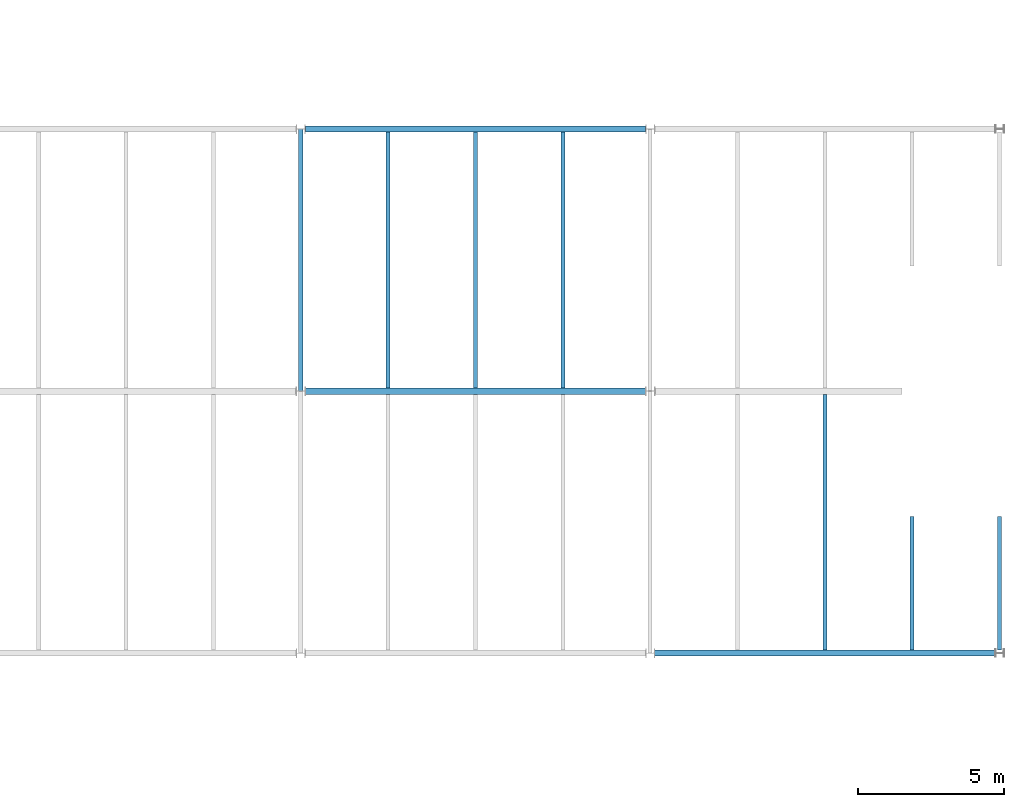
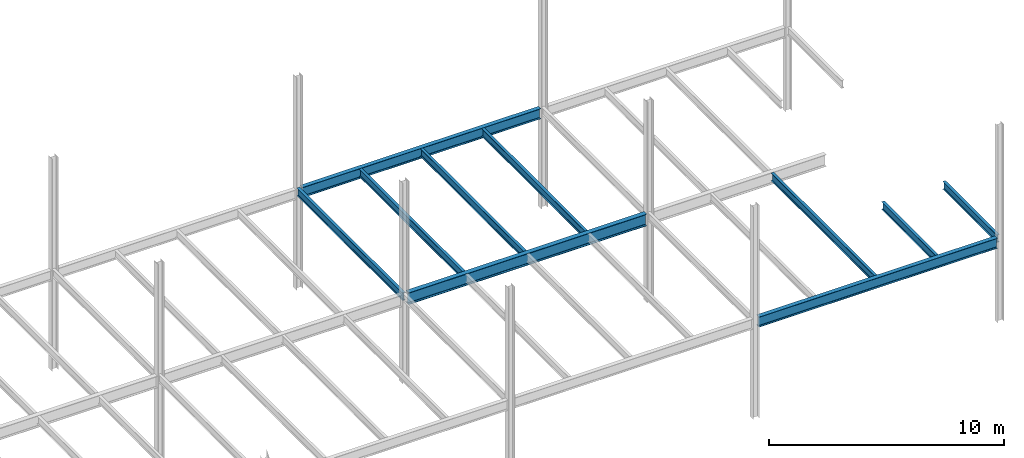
# One storey, part 18 of 19: 10 beams.
"""IFC2X3 building model written with IfcOpenShell, lengths in millimetres."""

from ifc_helpers import new_model, si_unit, origin, place, context, project, spatial, faceted_brep, material, element, save


model = new_model("IFC2X3")

# Units and contexts
context_of_model = context(None, 3, precision=1e-05, world=origin())
ifc_project = project(units=[si_unit("LENGTHUNIT", "METRE", prefix="MILLI")], contexts=[context_of_model])

# Building, storey
building = spatial("IfcBuilding", under=ifc_project, Name="Building", CompositionType="ELEMENT")
storey = spatial("IfcBuildingStorey", under=building, Name="FL2-FRM", CompositionType="ELEMENT")

# Beams
ifc_material_1 = material(Name="A992")
beam_1_placement = place(None, origin())
element("IfcBeam", 1, at=beam_1_placement, inside=storey, material=ifc_material_1, Name="Column493", context=context_of_model, shape_type="Brep", body=[
    faceted_brep([(60157.0, 26895.5, 3845.0), (60157.0, 27104.5, 3845.0), (71843.0, 27104.5, 3845.0), (71843.0, 26895.5, 3845.0), (60157.0, 27104.5, 3858.3), (71843.0, 27104.5, 3858.3), (60157.0, 27017.4, 3858.3), (71843.0, 27017.4, 3858.3), (60157.0, 27014.2, 3858.73), (71843.0, 27014.2, 3858.73), (60157.0, 27011.1, 3860.0), (71843.0, 27011.1, 3860.0), (60157.0, 27008.5, 3862.02), (71843.0, 27008.5, 3862.02), (60157.0, 27006.5, 3864.65), (71843.0, 27006.5, 3864.65), (60157.0, 27005.2, 3867.71), (71843.0, 27005.2, 3867.71), (60157.0, 27004.8, 3871.0), (71843.0, 27004.8, 3871.0), (60157.0, 27004.8, 4347.0), (71843.0, 27004.8, 4347.0), (60157.0, 27005.2, 4350.29), (71843.0, 27005.2, 4350.29), (60157.0, 27006.5, 4353.35), (71843.0, 27006.5, 4353.35), (60157.0, 27008.5, 4355.98), (71843.0, 27008.5, 4355.98), (60157.0, 27011.1, 4358.0), (71843.0, 27011.1, 4358.0), (60157.0, 27014.2, 4359.27), (71843.0, 27014.2, 4359.27), (60157.0, 27017.4, 4359.7), (71843.0, 27017.4, 4359.7), (60157.0, 27104.5, 4359.7), (71843.0, 27104.5, 4359.7), (60157.0, 27104.5, 4373.0), (71843.0, 27104.5, 4373.0), (60157.0, 26895.5, 4373.0), (71843.0, 26895.5, 4373.0), (60157.0, 26895.5, 4359.7), (71843.0, 26895.5, 4359.7), (60157.0, 26982.6, 4359.7), (71843.0, 26982.6, 4359.7), (60157.0, 26985.8, 4359.27), (71843.0, 26985.8, 4359.27), (60157.0, 26988.9, 4358.0), (71843.0, 26988.9, 4358.0), (60157.0, 26991.5, 4355.98), (71843.0, 26991.5, 4355.98), (60157.0, 26993.5, 4353.35), (71843.0, 26993.5, 4353.35), (60157.0, 26994.8, 4350.29), (71843.0, 26994.8, 4350.29), (60157.0, 26995.3, 4347.0), (71843.0, 26995.3, 4347.0), (60157.0, 26995.3, 3871.0), (71843.0, 26995.3, 3871.0), (60157.0, 26994.8, 3867.71), (71843.0, 26994.8, 3867.71), (60157.0, 26993.5, 3864.65), (71843.0, 26993.5, 3864.65), (60157.0, 26991.5, 3862.02), (71843.0, 26991.5, 3862.02), (60157.0, 26988.9, 3860.0), (71843.0, 26988.9, 3860.0), (60157.0, 26985.8, 3858.73), (71843.0, 26985.8, 3858.73), (60157.0, 26982.6, 3858.3), (71843.0, 26982.6, 3858.3), (60157.0, 26895.5, 3858.3), (71843.0, 26895.5, 3858.3)], [[[0, 1, 2, 3]], [[1, 4, 5, 2]], [[4, 6, 7, 5]], [[6, 8, 9, 7]], [[8, 10, 11, 9]], [[10, 12, 13, 11]], [[12, 14, 15, 13]], [[14, 16, 17, 15]], [[16, 18, 19, 17]], [[18, 20, 21, 19]], [[20, 22, 23, 21]], [[22, 24, 25, 23]], [[24, 26, 27, 25]], [[26, 28, 29, 27]], [[28, 30, 31, 29]], [[30, 32, 33, 31]], [[32, 34, 35, 33]], [[34, 36, 37, 35]], [[36, 38, 39, 37]], [[38, 40, 41, 39]], [[40, 42, 43, 41]], [[42, 44, 45, 43]], [[44, 46, 47, 45]], [[46, 48, 49, 47]], [[48, 50, 51, 49]], [[50, 52, 53, 51]], [[52, 54, 55, 53]], [[54, 56, 57, 55]], [[56, 58, 59, 57]], [[58, 60, 61, 59]], [[60, 62, 63, 61]], [[62, 64, 65, 63]], [[64, 66, 67, 65]], [[66, 68, 69, 67]], [[68, 70, 71, 69]], [[70, 0, 3, 71]], [[0, 70, 68, 66, 64, 62, 60, 58, 56, 54, 52, 50, 48, 46, 44, 42, 40, 38, 36, 34, 32, 30, 28, 26, 24, 22, 20, 18, 16, 14, 12, 10, 8, 6, 4, 1]], [[3, 2, 5, 7, 9, 11, 13, 15, 17, 19, 21, 23, 25, 27, 29, 31, 33, 35, 37, 39, 41, 43, 45, 47, 49, 51, 53, 55, 57, 59, 61, 63, 65, 67, 69, 71]]]),
])
ifc_material_2 = material(Name="A992")
beam_2_placement = place(None, origin())
element("IfcBeam", 2, at=beam_2_placement, inside=storey, material=ifc_material_2, Name="Column496", context=context_of_model, shape_type="Brep", body=[
    faceted_brep([(72154.0, 8895.5, 3845.0), (72154.0, 9104.5, 3845.0), (83847.0, 9104.5, 3845.0), (83847.0, 8895.5, 3845.0), (72154.0, 9104.5, 3858.3), (83847.0, 9104.5, 3858.3), (72154.0, 9017.45, 3858.3), (83847.0, 9017.45, 3858.3), (72154.0, 9014.16, 3858.73), (83847.0, 9014.16, 3858.73), (72154.0, 9011.1, 3860.0), (83847.0, 9011.1, 3860.0), (72154.0, 9008.47, 3862.02), (83847.0, 9008.47, 3862.02), (72154.0, 9006.45, 3864.65), (83847.0, 9006.45, 3864.65), (72154.0, 9005.18, 3867.71), (83847.0, 9005.18, 3867.71), (72154.0, 9004.75, 3871.0), (83847.0, 9004.75, 3871.0), (72154.0, 9004.75, 4347.0), (83847.0, 9004.75, 4347.0), (72154.0, 9005.18, 4350.29), (83847.0, 9005.18, 4350.29), (72154.0, 9006.45, 4353.35), (83847.0, 9006.45, 4353.35), (72154.0, 9008.47, 4355.98), (83847.0, 9008.47, 4355.98), (72154.0, 9011.1, 4358.0), (83847.0, 9011.1, 4358.0), (72154.0, 9014.16, 4359.27), (83847.0, 9014.16, 4359.27), (72154.0, 9017.45, 4359.7), (83847.0, 9017.45, 4359.7), (72154.0, 9104.5, 4359.7), (83847.0, 9104.5, 4359.7), (72154.0, 9104.5, 4373.0), (83847.0, 9104.5, 4373.0), (72154.0, 8895.5, 4373.0), (83847.0, 8895.5, 4373.0), (72154.0, 8895.5, 4359.7), (83847.0, 8895.5, 4359.7), (72154.0, 8982.55, 4359.7), (83847.0, 8982.55, 4359.7), (72154.0, 8985.84, 4359.27), (83847.0, 8985.84, 4359.27), (72154.0, 8988.9, 4358.0), (83847.0, 8988.9, 4358.0), (72154.0, 8991.53, 4355.98), (83847.0, 8991.53, 4355.98), (72154.0, 8993.55, 4353.35), (83847.0, 8993.55, 4353.35), (72154.0, 8994.82, 4350.29), (83847.0, 8994.82, 4350.29), (72154.0, 8995.25, 4347.0), (83847.0, 8995.25, 4347.0), (72154.0, 8995.25, 3871.0), (83847.0, 8995.25, 3871.0), (72154.0, 8994.82, 3867.71), (83847.0, 8994.82, 3867.71), (72154.0, 8993.55, 3864.65), (83847.0, 8993.55, 3864.65), (72154.0, 8991.53, 3862.02), (83847.0, 8991.53, 3862.02), (72154.0, 8988.9, 3860.0), (83847.0, 8988.9, 3860.0), (72154.0, 8985.84, 3858.73), (83847.0, 8985.84, 3858.73), (72154.0, 8982.55, 3858.3), (83847.0, 8982.55, 3858.3), (72154.0, 8895.5, 3858.3), (83847.0, 8895.5, 3858.3)], [[[0, 1, 2, 3]], [[1, 4, 5, 2]], [[4, 6, 7, 5]], [[6, 8, 9, 7]], [[8, 10, 11, 9]], [[10, 12, 13, 11]], [[12, 14, 15, 13]], [[14, 16, 17, 15]], [[16, 18, 19, 17]], [[18, 20, 21, 19]], [[20, 22, 23, 21]], [[22, 24, 25, 23]], [[24, 26, 27, 25]], [[26, 28, 29, 27]], [[28, 30, 31, 29]], [[30, 32, 33, 31]], [[32, 34, 35, 33]], [[34, 36, 37, 35]], [[36, 38, 39, 37]], [[38, 40, 41, 39]], [[40, 42, 43, 41]], [[42, 44, 45, 43]], [[44, 46, 47, 45]], [[46, 48, 49, 47]], [[48, 50, 51, 49]], [[50, 52, 53, 51]], [[52, 54, 55, 53]], [[54, 56, 57, 55]], [[56, 58, 59, 57]], [[58, 60, 61, 59]], [[60, 62, 63, 61]], [[62, 64, 65, 63]], [[64, 66, 67, 65]], [[66, 68, 69, 67]], [[68, 70, 71, 69]], [[70, 0, 3, 71]], [[0, 70, 68, 66, 64, 62, 60, 58, 56, 54, 52, 50, 48, 46, 44, 42, 40, 38, 36, 34, 32, 30, 28, 26, 24, 22, 20, 18, 16, 14, 12, 10, 8, 6, 4, 1]], [[3, 2, 5, 7, 9, 11, 13, 15, 17, 19, 21, 23, 25, 27, 29, 31, 33, 35, 37, 39, 41, 43, 45, 47, 49, 51, 53, 55, 57, 59, 61, 63, 65, 67, 69, 71]]]),
])
ifc_material_3 = material(Name="A992")
beam_3_placement = place(None, origin())
element("IfcBeam", 3, at=beam_3_placement, inside=storey, material=ifc_material_3, Name="Column498", context=context_of_model, shape_type="Brep", body=[
    faceted_brep([(60166.5, 17885.5, 3761.0), (60166.5, 18114.5, 3761.0), (71833.5, 18114.5, 3761.0), (71833.5, 17885.5, 3761.0), (60166.5, 18114.5, 3780.6), (71833.5, 18114.5, 3780.6), (60166.5, 18018.6, 3780.6), (71833.5, 18018.6, 3780.6), (60166.5, 18015.4, 3781.03), (71833.5, 18015.4, 3781.03), (60166.5, 18012.3, 3782.3), (71833.5, 18012.3, 3782.3), (60166.5, 18009.7, 3784.32), (71833.5, 18009.7, 3784.32), (60166.5, 18007.7, 3786.95), (71833.5, 18007.7, 3786.95), (60166.5, 18006.4, 3790.01), (71833.5, 18006.4, 3790.01), (60166.5, 18005.9, 3793.3), (71833.5, 18005.9, 3793.3), (60166.5, 18005.9, 4340.7), (71833.5, 18005.9, 4340.7), (60166.5, 18006.4, 4343.99), (71833.5, 18006.4, 4343.99), (60166.5, 18007.7, 4347.05), (71833.5, 18007.7, 4347.05), (60166.5, 18009.7, 4349.68), (71833.5, 18009.7, 4349.68), (60166.5, 18012.3, 4351.7), (71833.5, 18012.3, 4351.7), (60166.5, 18015.4, 4352.97), (71833.5, 18015.4, 4352.97), (60166.5, 18018.6, 4353.4), (71833.5, 18018.6, 4353.4), (60166.5, 18114.5, 4353.4), (71833.5, 18114.5, 4353.4), (60166.5, 18114.5, 4373.0), (71833.5, 18114.5, 4373.0), (60166.5, 17885.5, 4373.0), (71833.5, 17885.5, 4373.0), (60166.5, 17885.5, 4353.4), (71833.5, 17885.5, 4353.4), (60166.5, 17981.4, 4353.4), (71833.5, 17981.4, 4353.4), (60166.5, 17984.6, 4352.97), (71833.5, 17984.6, 4352.97), (60166.5, 17987.7, 4351.7), (71833.5, 17987.7, 4351.7), (60166.5, 17990.3, 4349.68), (71833.5, 17990.3, 4349.68), (60166.5, 17992.3, 4347.05), (71833.5, 17992.3, 4347.05), (60166.5, 17993.6, 4343.99), (71833.5, 17993.6, 4343.99), (60166.5, 17994.1, 4340.7), (71833.5, 17994.1, 4340.7), (60166.5, 17994.1, 3793.3), (71833.5, 17994.1, 3793.3), (60166.5, 17993.6, 3790.01), (71833.5, 17993.6, 3790.01), (60166.5, 17992.3, 3786.95), (71833.5, 17992.3, 3786.95), (60166.5, 17990.3, 3784.32), (71833.5, 17990.3, 3784.32), (60166.5, 17987.7, 3782.3), (71833.5, 17987.7, 3782.3), (60166.5, 17984.6, 3781.03), (71833.5, 17984.6, 3781.03), (60166.5, 17981.4, 3780.6), (71833.5, 17981.4, 3780.6), (60166.5, 17885.5, 3780.6), (71833.5, 17885.5, 3780.6)], [[[0, 1, 2, 3]], [[1, 4, 5, 2]], [[4, 6, 7, 5]], [[6, 8, 9, 7]], [[8, 10, 11, 9]], [[10, 12, 13, 11]], [[12, 14, 15, 13]], [[14, 16, 17, 15]], [[16, 18, 19, 17]], [[18, 20, 21, 19]], [[20, 22, 23, 21]], [[22, 24, 25, 23]], [[24, 26, 27, 25]], [[26, 28, 29, 27]], [[28, 30, 31, 29]], [[30, 32, 33, 31]], [[32, 34, 35, 33]], [[34, 36, 37, 35]], [[36, 38, 39, 37]], [[38, 40, 41, 39]], [[40, 42, 43, 41]], [[42, 44, 45, 43]], [[44, 46, 47, 45]], [[46, 48, 49, 47]], [[48, 50, 51, 49]], [[50, 52, 53, 51]], [[52, 54, 55, 53]], [[54, 56, 57, 55]], [[56, 58, 59, 57]], [[58, 60, 61, 59]], [[60, 62, 63, 61]], [[62, 64, 65, 63]], [[64, 66, 67, 65]], [[66, 68, 69, 67]], [[68, 70, 71, 69]], [[70, 0, 3, 71]], [[0, 70, 68, 66, 64, 62, 60, 58, 56, 54, 52, 50, 48, 46, 44, 42, 40, 38, 36, 34, 32, 30, 28, 26, 24, 22, 20, 18, 16, 14, 12, 10, 8, 6, 4, 1]], [[3, 2, 5, 7, 9, 11, 13, 15, 17, 19, 21, 23, 25, 27, 29, 31, 33, 35, 37, 39, 41, 43, 45, 47, 49, 51, 53, 55, 57, 59, 61, 63, 65, 67, 69, 71]]]),
])
ifc_material_4 = material(Name="A992")
beam_4_placement = place(None, origin())
element("IfcBeam", 4, at=beam_4_placement, inside=storey, material=ifc_material_4, Name="B1096", context=context_of_model, shape_type="Brep", body=[
    faceted_brep([(59930.0, 26994.1, 3974.0), (60070.0, 26994.1, 3974.0), (60070.0, 18009.0, 3974.0), (59930.0, 18009.0, 3974.0), (60070.0, 26994.1, 3982.8), (60070.0, 18009.0, 3982.8), (60013.4, 26994.1, 3982.8), (60013.4, 18009.0, 3982.8), (60010.8, 26994.1, 3983.15), (60010.8, 18009.0, 3983.15), (60008.3, 26994.1, 3984.17), (60008.3, 18009.0, 3984.17), (60006.2, 26994.1, 3985.79), (60006.2, 18009.0, 3985.79), (60004.6, 26994.1, 3987.9), (60004.6, 18009.0, 3987.9), (60003.5, 26994.1, 3990.36), (60003.5, 18009.0, 3990.36), (60003.2, 26994.1, 3993.0), (60003.2, 18009.0, 3993.0), (60003.2, 26994.1, 4354.0), (60003.2, 18009.0, 4354.0), (60003.5, 26994.1, 4356.64), (60003.5, 18009.0, 4356.64), (60004.6, 26994.1, 4359.1), (60004.6, 18009.0, 4359.1), (60006.2, 26994.1, 4361.21), (60006.2, 18009.0, 4361.21), (60008.3, 26994.1, 4362.83), (60008.3, 18009.0, 4362.83), (60010.8, 26994.1, 4363.85), (60010.8, 18009.0, 4363.85), (60013.4, 26994.1, 4364.2), (60013.4, 18009.0, 4364.2), (60070.0, 26994.1, 4364.2), (60070.0, 18009.0, 4364.2), (60070.0, 26994.1, 4373.0), (60070.0, 18009.0, 4373.0), (59930.0, 26994.1, 4373.0), (59930.0, 18009.0, 4373.0), (59930.0, 26994.1, 4364.2), (59930.0, 18009.0, 4364.2), (59986.6, 26994.1, 4364.2), (59986.6, 18009.0, 4364.2), (59989.2, 26994.1, 4363.85), (59989.2, 18009.0, 4363.85), (59991.7, 26994.1, 4362.83), (59991.7, 18009.0, 4362.83), (59993.8, 26994.1, 4361.21), (59993.8, 18009.0, 4361.21), (59995.4, 26994.1, 4359.1), (59995.4, 18009.0, 4359.1), (59996.5, 26994.1, 4356.64), (59996.5, 18009.0, 4356.64), (59996.8, 26994.1, 4354.0), (59996.8, 18009.0, 4354.0), (59996.8, 26994.1, 3993.0), (59996.8, 18009.0, 3993.0), (59996.5, 26994.1, 3990.36), (59996.5, 18009.0, 3990.36), (59995.4, 26994.1, 3987.9), (59995.4, 18009.0, 3987.9), (59993.8, 26994.1, 3985.79), (59993.8, 18009.0, 3985.79), (59991.7, 26994.1, 3984.17), (59991.7, 18009.0, 3984.17), (59989.2, 26994.1, 3983.15), (59989.2, 18009.0, 3983.15), (59986.6, 26994.1, 3982.8), (59986.6, 18009.0, 3982.8), (59930.0, 26994.1, 3982.8), (59930.0, 18009.0, 3982.8)], [[[0, 1, 2, 3]], [[1, 4, 5, 2]], [[4, 6, 7, 5]], [[6, 8, 9, 7]], [[8, 10, 11, 9]], [[10, 12, 13, 11]], [[12, 14, 15, 13]], [[14, 16, 17, 15]], [[16, 18, 19, 17]], [[18, 20, 21, 19]], [[20, 22, 23, 21]], [[22, 24, 25, 23]], [[24, 26, 27, 25]], [[26, 28, 29, 27]], [[28, 30, 31, 29]], [[30, 32, 33, 31]], [[32, 34, 35, 33]], [[34, 36, 37, 35]], [[36, 38, 39, 37]], [[38, 40, 41, 39]], [[40, 42, 43, 41]], [[42, 44, 45, 43]], [[44, 46, 47, 45]], [[46, 48, 49, 47]], [[48, 50, 51, 49]], [[50, 52, 53, 51]], [[52, 54, 55, 53]], [[54, 56, 57, 55]], [[56, 58, 59, 57]], [[58, 60, 61, 59]], [[60, 62, 63, 61]], [[62, 64, 65, 63]], [[64, 66, 67, 65]], [[66, 68, 69, 67]], [[68, 70, 71, 69]], [[70, 0, 3, 71]], [[0, 70, 68, 66, 64, 62, 60, 58, 56, 54, 52, 50, 48, 46, 44, 42, 40, 38, 36, 34, 32, 30, 28, 26, 24, 22, 20, 18, 16, 14, 12, 10, 8, 6, 4, 1]], [[3, 2, 5, 7, 9, 11, 13, 15, 17, 19, 21, 23, 25, 27, 29, 31, 33, 35, 37, 39, 41, 43, 45, 47, 49, 51, 53, 55, 57, 59, 61, 63, 65, 67, 69, 71]]]),
])
ifc_material_5 = material(Name="A992")
beam_5_placement = place(None, origin())
element("IfcBeam", 5, at=beam_5_placement, inside=storey, material=ifc_material_5, Name="B1097", context=context_of_model, shape_type="Brep", body=[
    faceted_brep([(62930.0, 26895.5, 3974.0), (63070.0, 26895.5, 3974.0), (63070.0, 18114.5, 3974.0), (62930.0, 18114.5, 3974.0), (63070.0, 26895.5, 3982.8), (63070.0, 18114.5, 3982.8), (63013.4, 26895.5, 3982.8), (63013.4, 18114.5, 3982.8), (63010.8, 26895.5, 3983.15), (63010.8, 18114.5, 3983.15), (63008.3, 26895.5, 3984.17), (63008.3, 18114.5, 3984.17), (63006.2, 26895.5, 3985.79), (63006.2, 18114.5, 3985.79), (63004.6, 26895.5, 3987.9), (63004.6, 18114.5, 3987.9), (63003.5, 26895.5, 3990.36), (63003.5, 18114.5, 3990.36), (63003.2, 26895.5, 3993.0), (63003.2, 18114.5, 3993.0), (63003.2, 26895.5, 4354.0), (63003.2, 18114.5, 4354.0), (63003.5, 26895.5, 4356.64), (63003.5, 18114.5, 4356.64), (63004.6, 26895.5, 4359.1), (63004.6, 18114.5, 4359.1), (63006.2, 26895.5, 4361.21), (63006.2, 18114.5, 4361.21), (63008.3, 26895.5, 4362.83), (63008.3, 18114.5, 4362.83), (63010.8, 26895.5, 4363.85), (63010.8, 18114.5, 4363.85), (63013.4, 26895.5, 4364.2), (63013.4, 18114.5, 4364.2), (63070.0, 26895.5, 4364.2), (63070.0, 18114.5, 4364.2), (63070.0, 26895.5, 4373.0), (63070.0, 18114.5, 4373.0), (62930.0, 26895.5, 4373.0), (62930.0, 18114.5, 4373.0), (62930.0, 26895.5, 4364.2), (62930.0, 18114.5, 4364.2), (62986.6, 26895.5, 4364.2), (62986.6, 18114.5, 4364.2), (62989.2, 26895.5, 4363.85), (62989.2, 18114.5, 4363.85), (62991.7, 26895.5, 4362.83), (62991.7, 18114.5, 4362.83), (62993.8, 26895.5, 4361.21), (62993.8, 18114.5, 4361.21), (62995.4, 26895.5, 4359.1), (62995.4, 18114.5, 4359.1), (62996.5, 26895.5, 4356.64), (62996.5, 18114.5, 4356.64), (62996.8, 26895.5, 4354.0), (62996.8, 18114.5, 4354.0), (62996.8, 26895.5, 3993.0), (62996.8, 18114.5, 3993.0), (62996.5, 26895.5, 3990.36), (62996.5, 18114.5, 3990.36), (62995.4, 26895.5, 3987.9), (62995.4, 18114.5, 3987.9), (62993.8, 26895.5, 3985.79), (62993.8, 18114.5, 3985.79), (62991.7, 26895.5, 3984.17), (62991.7, 18114.5, 3984.17), (62989.2, 26895.5, 3983.15), (62989.2, 18114.5, 3983.15), (62986.6, 26895.5, 3982.8), (62986.6, 18114.5, 3982.8), (62930.0, 26895.5, 3982.8), (62930.0, 18114.5, 3982.8)], [[[0, 1, 2, 3]], [[1, 4, 5, 2]], [[4, 6, 7, 5]], [[6, 8, 9, 7]], [[8, 10, 11, 9]], [[10, 12, 13, 11]], [[12, 14, 15, 13]], [[14, 16, 17, 15]], [[16, 18, 19, 17]], [[18, 20, 21, 19]], [[20, 22, 23, 21]], [[22, 24, 25, 23]], [[24, 26, 27, 25]], [[26, 28, 29, 27]], [[28, 30, 31, 29]], [[30, 32, 33, 31]], [[32, 34, 35, 33]], [[34, 36, 37, 35]], [[36, 38, 39, 37]], [[38, 40, 41, 39]], [[40, 42, 43, 41]], [[42, 44, 45, 43]], [[44, 46, 47, 45]], [[46, 48, 49, 47]], [[48, 50, 51, 49]], [[50, 52, 53, 51]], [[52, 54, 55, 53]], [[54, 56, 57, 55]], [[56, 58, 59, 57]], [[58, 60, 61, 59]], [[60, 62, 63, 61]], [[62, 64, 65, 63]], [[64, 66, 67, 65]], [[66, 68, 69, 67]], [[68, 70, 71, 69]], [[70, 0, 3, 71]], [[0, 70, 68, 66, 64, 62, 60, 58, 56, 54, 52, 50, 48, 46, 44, 42, 40, 38, 36, 34, 32, 30, 28, 26, 24, 22, 20, 18, 16, 14, 12, 10, 8, 6, 4, 1]], [[3, 2, 5, 7, 9, 11, 13, 15, 17, 19, 21, 23, 25, 27, 29, 31, 33, 35, 37, 39, 41, 43, 45, 47, 49, 51, 53, 55, 57, 59, 61, 63, 65, 67, 69, 71]]]),
])
ifc_material_6 = material(Name="A992")
beam_6_placement = place(None, origin())
element("IfcBeam", 6, at=beam_6_placement, inside=storey, material=ifc_material_6, Name="B1098", context=context_of_model, shape_type="Brep", body=[
    faceted_brep([(65930.0, 26895.5, 3974.0), (66070.0, 26895.5, 3974.0), (66070.0, 18114.5, 3974.0), (65930.0, 18114.5, 3974.0), (66070.0, 26895.5, 3982.8), (66070.0, 18114.5, 3982.8), (66013.4, 26895.5, 3982.8), (66013.4, 18114.5, 3982.8), (66010.8, 26895.5, 3983.15), (66010.8, 18114.5, 3983.15), (66008.3, 26895.5, 3984.17), (66008.3, 18114.5, 3984.17), (66006.2, 26895.5, 3985.79), (66006.2, 18114.5, 3985.79), (66004.6, 26895.5, 3987.9), (66004.6, 18114.5, 3987.9), (66003.5, 26895.5, 3990.36), (66003.5, 18114.5, 3990.36), (66003.2, 26895.5, 3993.0), (66003.2, 18114.5, 3993.0), (66003.2, 26895.5, 4354.0), (66003.2, 18114.5, 4354.0), (66003.5, 26895.5, 4356.64), (66003.5, 18114.5, 4356.64), (66004.6, 26895.5, 4359.1), (66004.6, 18114.5, 4359.1), (66006.2, 26895.5, 4361.21), (66006.2, 18114.5, 4361.21), (66008.3, 26895.5, 4362.83), (66008.3, 18114.5, 4362.83), (66010.8, 26895.5, 4363.85), (66010.8, 18114.5, 4363.85), (66013.4, 26895.5, 4364.2), (66013.4, 18114.5, 4364.2), (66070.0, 26895.5, 4364.2), (66070.0, 18114.5, 4364.2), (66070.0, 26895.5, 4373.0), (66070.0, 18114.5, 4373.0), (65930.0, 26895.5, 4373.0), (65930.0, 18114.5, 4373.0), (65930.0, 26895.5, 4364.2), (65930.0, 18114.5, 4364.2), (65986.6, 26895.5, 4364.2), (65986.6, 18114.5, 4364.2), (65989.2, 26895.5, 4363.85), (65989.2, 18114.5, 4363.85), (65991.7, 26895.5, 4362.83), (65991.7, 18114.5, 4362.83), (65993.8, 26895.5, 4361.21), (65993.8, 18114.5, 4361.21), (65995.4, 26895.5, 4359.1), (65995.4, 18114.5, 4359.1), (65996.5, 26895.5, 4356.64), (65996.5, 18114.5, 4356.64), (65996.8, 26895.5, 4354.0), (65996.8, 18114.5, 4354.0), (65996.8, 26895.5, 3993.0), (65996.8, 18114.5, 3993.0), (65996.5, 26895.5, 3990.36), (65996.5, 18114.5, 3990.36), (65995.4, 26895.5, 3987.9), (65995.4, 18114.5, 3987.9), (65993.8, 26895.5, 3985.79), (65993.8, 18114.5, 3985.79), (65991.7, 26895.5, 3984.17), (65991.7, 18114.5, 3984.17), (65989.2, 26895.5, 3983.15), (65989.2, 18114.5, 3983.15), (65986.6, 26895.5, 3982.8), (65986.6, 18114.5, 3982.8), (65930.0, 26895.5, 3982.8), (65930.0, 18114.5, 3982.8)], [[[0, 1, 2, 3]], [[1, 4, 5, 2]], [[4, 6, 7, 5]], [[6, 8, 9, 7]], [[8, 10, 11, 9]], [[10, 12, 13, 11]], [[12, 14, 15, 13]], [[14, 16, 17, 15]], [[16, 18, 19, 17]], [[18, 20, 21, 19]], [[20, 22, 23, 21]], [[22, 24, 25, 23]], [[24, 26, 27, 25]], [[26, 28, 29, 27]], [[28, 30, 31, 29]], [[30, 32, 33, 31]], [[32, 34, 35, 33]], [[34, 36, 37, 35]], [[36, 38, 39, 37]], [[38, 40, 41, 39]], [[40, 42, 43, 41]], [[42, 44, 45, 43]], [[44, 46, 47, 45]], [[46, 48, 49, 47]], [[48, 50, 51, 49]], [[50, 52, 53, 51]], [[52, 54, 55, 53]], [[54, 56, 57, 55]], [[56, 58, 59, 57]], [[58, 60, 61, 59]], [[60, 62, 63, 61]], [[62, 64, 65, 63]], [[64, 66, 67, 65]], [[66, 68, 69, 67]], [[68, 70, 71, 69]], [[70, 0, 3, 71]], [[0, 70, 68, 66, 64, 62, 60, 58, 56, 54, 52, 50, 48, 46, 44, 42, 40, 38, 36, 34, 32, 30, 28, 26, 24, 22, 20, 18, 16, 14, 12, 10, 8, 6, 4, 1]], [[3, 2, 5, 7, 9, 11, 13, 15, 17, 19, 21, 23, 25, 27, 29, 31, 33, 35, 37, 39, 41, 43, 45, 47, 49, 51, 53, 55, 57, 59, 61, 63, 65, 67, 69, 71]]]),
])
ifc_material_7 = material(Name="A992")
beam_7_placement = place(None, origin())
element("IfcBeam", 7, at=beam_7_placement, inside=storey, material=ifc_material_7, Name="B1099", context=context_of_model, shape_type="Brep", body=[
    faceted_brep([(68930.0, 26895.5, 3974.0), (69070.0, 26895.5, 3974.0), (69070.0, 18114.5, 3974.0), (68930.0, 18114.5, 3974.0), (69070.0, 26895.5, 3982.8), (69070.0, 18114.5, 3982.8), (69013.4, 26895.5, 3982.8), (69013.4, 18114.5, 3982.8), (69010.8, 26895.5, 3983.15), (69010.8, 18114.5, 3983.15), (69008.3, 26895.5, 3984.17), (69008.3, 18114.5, 3984.17), (69006.2, 26895.5, 3985.79), (69006.2, 18114.5, 3985.79), (69004.6, 26895.5, 3987.9), (69004.6, 18114.5, 3987.9), (69003.5, 26895.5, 3990.36), (69003.5, 18114.5, 3990.36), (69003.2, 26895.5, 3993.0), (69003.2, 18114.5, 3993.0), (69003.2, 26895.5, 4354.0), (69003.2, 18114.5, 4354.0), (69003.5, 26895.5, 4356.64), (69003.5, 18114.5, 4356.64), (69004.6, 26895.5, 4359.1), (69004.6, 18114.5, 4359.1), (69006.2, 26895.5, 4361.21), (69006.2, 18114.5, 4361.21), (69008.3, 26895.5, 4362.83), (69008.3, 18114.5, 4362.83), (69010.8, 26895.5, 4363.85), (69010.8, 18114.5, 4363.85), (69013.4, 26895.5, 4364.2), (69013.4, 18114.5, 4364.2), (69070.0, 26895.5, 4364.2), (69070.0, 18114.5, 4364.2), (69070.0, 26895.5, 4373.0), (69070.0, 18114.5, 4373.0), (68930.0, 26895.5, 4373.0), (68930.0, 18114.5, 4373.0), (68930.0, 26895.5, 4364.2), (68930.0, 18114.5, 4364.2), (68986.6, 26895.5, 4364.2), (68986.6, 18114.5, 4364.2), (68989.2, 26895.5, 4363.85), (68989.2, 18114.5, 4363.85), (68991.7, 26895.5, 4362.83), (68991.7, 18114.5, 4362.83), (68993.8, 26895.5, 4361.21), (68993.8, 18114.5, 4361.21), (68995.4, 26895.5, 4359.1), (68995.4, 18114.5, 4359.1), (68996.5, 26895.5, 4356.64), (68996.5, 18114.5, 4356.64), (68996.8, 26895.5, 4354.0), (68996.8, 18114.5, 4354.0), (68996.8, 26895.5, 3993.0), (68996.8, 18114.5, 3993.0), (68996.5, 26895.5, 3990.36), (68996.5, 18114.5, 3990.36), (68995.4, 26895.5, 3987.9), (68995.4, 18114.5, 3987.9), (68993.8, 26895.5, 3985.79), (68993.8, 18114.5, 3985.79), (68991.7, 26895.5, 3984.17), (68991.7, 18114.5, 3984.17), (68989.2, 26895.5, 3983.15), (68989.2, 18114.5, 3983.15), (68986.6, 26895.5, 3982.8), (68986.6, 18114.5, 3982.8), (68930.0, 26895.5, 3982.8), (68930.0, 18114.5, 3982.8)], [[[0, 1, 2, 3]], [[1, 4, 5, 2]], [[4, 6, 7, 5]], [[6, 8, 9, 7]], [[8, 10, 11, 9]], [[10, 12, 13, 11]], [[12, 14, 15, 13]], [[14, 16, 17, 15]], [[16, 18, 19, 17]], [[18, 20, 21, 19]], [[20, 22, 23, 21]], [[22, 24, 25, 23]], [[24, 26, 27, 25]], [[26, 28, 29, 27]], [[28, 30, 31, 29]], [[30, 32, 33, 31]], [[32, 34, 35, 33]], [[34, 36, 37, 35]], [[36, 38, 39, 37]], [[38, 40, 41, 39]], [[40, 42, 43, 41]], [[42, 44, 45, 43]], [[44, 46, 47, 45]], [[46, 48, 49, 47]], [[48, 50, 51, 49]], [[50, 52, 53, 51]], [[52, 54, 55, 53]], [[54, 56, 57, 55]], [[56, 58, 59, 57]], [[58, 60, 61, 59]], [[60, 62, 63, 61]], [[62, 64, 65, 63]], [[64, 66, 67, 65]], [[66, 68, 69, 67]], [[68, 70, 71, 69]], [[70, 0, 3, 71]], [[0, 70, 68, 66, 64, 62, 60, 58, 56, 54, 52, 50, 48, 46, 44, 42, 40, 38, 36, 34, 32, 30, 28, 26, 24, 22, 20, 18, 16, 14, 12, 10, 8, 6, 4, 1]], [[3, 2, 5, 7, 9, 11, 13, 15, 17, 19, 21, 23, 25, 27, 29, 31, 33, 35, 37, 39, 41, 43, 45, 47, 49, 51, 53, 55, 57, 59, 61, 63, 65, 67, 69, 71]]]),
])
ifc_material_8 = material(Name="A992")
beam_8_placement = place(None, origin())
element("IfcBeam", 8, at=beam_8_placement, inside=storey, material=ifc_material_8, Name="B1104", context=context_of_model, shape_type="Brep", body=[
    faceted_brep([(78070.0, 9104.5, 3974.0), (77930.0, 9104.5, 3974.0), (77930.0, 17885.5, 3974.0), (78070.0, 17885.5, 3974.0), (77930.0, 9104.5, 3982.8), (77930.0, 17885.5, 3982.8), (77986.6, 9104.5, 3982.8), (77986.6, 17885.5, 3982.8), (77989.2, 9104.5, 3983.15), (77989.2, 17885.5, 3983.15), (77991.7, 9104.5, 3984.17), (77991.7, 17885.5, 3984.17), (77993.8, 9104.5, 3985.79), (77993.8, 17885.5, 3985.79), (77995.4, 9104.5, 3987.9), (77995.4, 17885.5, 3987.9), (77996.5, 9104.5, 3990.36), (77996.5, 17885.5, 3990.36), (77996.8, 9104.5, 3993.0), (77996.8, 17885.5, 3993.0), (77996.8, 9104.5, 4354.0), (77996.8, 17885.5, 4354.0), (77996.5, 9104.5, 4356.64), (77996.5, 17885.5, 4356.64), (77995.4, 9104.5, 4359.1), (77995.4, 17885.5, 4359.1), (77993.8, 9104.5, 4361.21), (77993.8, 17885.5, 4361.21), (77991.7, 9104.5, 4362.83), (77991.7, 17885.5, 4362.83), (77989.2, 9104.5, 4363.85), (77989.2, 17885.5, 4363.85), (77986.6, 9104.5, 4364.2), (77986.6, 17885.5, 4364.2), (77930.0, 9104.5, 4364.2), (77930.0, 17885.5, 4364.2), (77930.0, 9104.5, 4373.0), (77930.0, 17885.5, 4373.0), (78070.0, 9104.5, 4373.0), (78070.0, 17885.5, 4373.0), (78070.0, 9104.5, 4364.2), (78070.0, 17885.5, 4364.2), (78013.4, 9104.5, 4364.2), (78013.4, 17885.5, 4364.2), (78010.8, 9104.5, 4363.85), (78010.8, 17885.5, 4363.85), (78008.3, 9104.5, 4362.83), (78008.3, 17885.5, 4362.83), (78006.2, 9104.5, 4361.21), (78006.2, 17885.5, 4361.21), (78004.6, 9104.5, 4359.1), (78004.6, 17885.5, 4359.1), (78003.5, 9104.5, 4356.64), (78003.5, 17885.5, 4356.64), (78003.2, 9104.5, 4354.0), (78003.2, 17885.5, 4354.0), (78003.2, 9104.5, 3993.0), (78003.2, 17885.5, 3993.0), (78003.5, 9104.5, 3990.36), (78003.5, 17885.5, 3990.36), (78004.6, 9104.5, 3987.9), (78004.6, 17885.5, 3987.9), (78006.2, 9104.5, 3985.79), (78006.2, 17885.5, 3985.79), (78008.3, 9104.5, 3984.17), (78008.3, 17885.5, 3984.17), (78010.8, 9104.5, 3983.15), (78010.8, 17885.5, 3983.15), (78013.4, 9104.5, 3982.8), (78013.4, 17885.5, 3982.8), (78070.0, 9104.5, 3982.8), (78070.0, 17885.5, 3982.8)], [[[0, 1, 2, 3]], [[1, 4, 5, 2]], [[4, 6, 7, 5]], [[6, 8, 9, 7]], [[8, 10, 11, 9]], [[10, 12, 13, 11]], [[12, 14, 15, 13]], [[14, 16, 17, 15]], [[16, 18, 19, 17]], [[18, 20, 21, 19]], [[20, 22, 23, 21]], [[22, 24, 25, 23]], [[24, 26, 27, 25]], [[26, 28, 29, 27]], [[28, 30, 31, 29]], [[30, 32, 33, 31]], [[32, 34, 35, 33]], [[34, 36, 37, 35]], [[36, 38, 39, 37]], [[38, 40, 41, 39]], [[40, 42, 43, 41]], [[42, 44, 45, 43]], [[44, 46, 47, 45]], [[46, 48, 49, 47]], [[48, 50, 51, 49]], [[50, 52, 53, 51]], [[52, 54, 55, 53]], [[54, 56, 57, 55]], [[56, 58, 59, 57]], [[58, 60, 61, 59]], [[60, 62, 63, 61]], [[62, 64, 65, 63]], [[64, 66, 67, 65]], [[66, 68, 69, 67]], [[68, 70, 71, 69]], [[70, 0, 3, 71]], [[0, 70, 68, 66, 64, 62, 60, 58, 56, 54, 52, 50, 48, 46, 44, 42, 40, 38, 36, 34, 32, 30, 28, 26, 24, 22, 20, 18, 16, 14, 12, 10, 8, 6, 4, 1]], [[3, 2, 5, 7, 9, 11, 13, 15, 17, 19, 21, 23, 25, 27, 29, 31, 33, 35, 37, 39, 41, 43, 45, 47, 49, 51, 53, 55, 57, 59, 61, 63, 65, 67, 69, 71]]]),
])
ifc_material_9 = material(Name="A992")
beam_9_placement = place(None, origin())
element("IfcBeam", 9, at=beam_9_placement, inside=storey, material=ifc_material_9, Name="B1105", context=context_of_model, shape_type="Brep", body=[
    faceted_brep([(81070.0, 9104.5, 3974.0), (80930.0, 9104.5, 3974.0), (80930.0, 13700.0, 3974.0), (81070.0, 13700.0, 3974.0), (80930.0, 9104.5, 3982.8), (80930.0, 13700.0, 3982.8), (80986.6, 9104.5, 3982.8), (80986.6, 13700.0, 3982.8), (80989.2, 9104.5, 3983.15), (80989.2, 13700.0, 3983.15), (80991.7, 9104.5, 3984.17), (80991.7, 13700.0, 3984.17), (80993.8, 9104.5, 3985.79), (80993.8, 13700.0, 3985.79), (80995.4, 9104.5, 3987.9), (80995.4, 13700.0, 3987.9), (80996.5, 9104.5, 3990.36), (80996.5, 13700.0, 3990.36), (80996.8, 9104.5, 3993.0), (80996.8, 13700.0, 3993.0), (80996.8, 9104.5, 4354.0), (80996.8, 13700.0, 4354.0), (80996.5, 9104.5, 4356.64), (80996.5, 13700.0, 4356.64), (80995.4, 9104.5, 4359.1), (80995.4, 13700.0, 4359.1), (80993.8, 9104.5, 4361.21), (80993.8, 13700.0, 4361.21), (80991.7, 9104.5, 4362.83), (80991.7, 13700.0, 4362.83), (80989.2, 9104.5, 4363.85), (80989.2, 13700.0, 4363.85), (80986.6, 9104.5, 4364.2), (80986.6, 13700.0, 4364.2), (80930.0, 9104.5, 4364.2), (80930.0, 13700.0, 4364.2), (80930.0, 9104.5, 4373.0), (80930.0, 13700.0, 4373.0), (81070.0, 9104.5, 4373.0), (81070.0, 13700.0, 4373.0), (81070.0, 9104.5, 4364.2), (81070.0, 13700.0, 4364.2), (81013.4, 9104.5, 4364.2), (81013.4, 13700.0, 4364.2), (81010.8, 9104.5, 4363.85), (81010.8, 13700.0, 4363.85), (81008.3, 9104.5, 4362.83), (81008.3, 13700.0, 4362.83), (81006.2, 9104.5, 4361.21), (81006.2, 13700.0, 4361.21), (81004.6, 9104.5, 4359.1), (81004.6, 13700.0, 4359.1), (81003.5, 9104.5, 4356.64), (81003.5, 13700.0, 4356.64), (81003.2, 9104.5, 4354.0), (81003.2, 13700.0, 4354.0), (81003.2, 9104.5, 3993.0), (81003.2, 13700.0, 3993.0), (81003.5, 9104.5, 3990.36), (81003.5, 13700.0, 3990.36), (81004.6, 9104.5, 3987.9), (81004.6, 13700.0, 3987.9), (81006.2, 9104.5, 3985.79), (81006.2, 13700.0, 3985.79), (81008.3, 9104.5, 3984.17), (81008.3, 13700.0, 3984.17), (81010.8, 9104.5, 3983.15), (81010.8, 13700.0, 3983.15), (81013.4, 9104.5, 3982.8), (81013.4, 13700.0, 3982.8), (81070.0, 9104.5, 3982.8), (81070.0, 13700.0, 3982.8)], [[[0, 1, 2, 3]], [[1, 4, 5, 2]], [[4, 6, 7, 5]], [[6, 8, 9, 7]], [[8, 10, 11, 9]], [[10, 12, 13, 11]], [[12, 14, 15, 13]], [[14, 16, 17, 15]], [[16, 18, 19, 17]], [[18, 20, 21, 19]], [[20, 22, 23, 21]], [[22, 24, 25, 23]], [[24, 26, 27, 25]], [[26, 28, 29, 27]], [[28, 30, 31, 29]], [[30, 32, 33, 31]], [[32, 34, 35, 33]], [[34, 36, 37, 35]], [[36, 38, 39, 37]], [[38, 40, 41, 39]], [[40, 42, 43, 41]], [[42, 44, 45, 43]], [[44, 46, 47, 45]], [[46, 48, 49, 47]], [[48, 50, 51, 49]], [[50, 52, 53, 51]], [[52, 54, 55, 53]], [[54, 56, 57, 55]], [[56, 58, 59, 57]], [[58, 60, 61, 59]], [[60, 62, 63, 61]], [[62, 64, 65, 63]], [[64, 66, 67, 65]], [[66, 68, 69, 67]], [[68, 70, 71, 69]], [[70, 0, 3, 71]], [[0, 70, 68, 66, 64, 62, 60, 58, 56, 54, 52, 50, 48, 46, 44, 42, 40, 38, 36, 34, 32, 30, 28, 26, 24, 22, 20, 18, 16, 14, 12, 10, 8, 6, 4, 1]], [[3, 2, 5, 7, 9, 11, 13, 15, 17, 19, 21, 23, 25, 27, 29, 31, 33, 35, 37, 39, 41, 43, 45, 47, 49, 51, 53, 55, 57, 59, 61, 63, 65, 67, 69, 71]]]),
])
ifc_material_10 = material(Name="A992")
beam_10_placement = place(None, origin())
element("IfcBeam", 10, at=beam_10_placement, inside=storey, material=ifc_material_10, Name="B1106", context=context_of_model, shape_type="Brep", body=[
    faceted_brep([(84070.0, 9104.5, 3974.0), (83930.0, 9104.5, 3974.0), (83930.0, 13700.0, 3974.0), (84070.0, 13700.0, 3974.0), (83930.0, 9104.5, 3982.8), (83930.0, 13700.0, 3982.8), (83986.6, 9104.5, 3982.8), (83986.6, 13700.0, 3982.8), (83989.2, 9104.5, 3983.15), (83989.2, 13700.0, 3983.15), (83991.7, 9104.5, 3984.17), (83991.7, 13700.0, 3984.17), (83993.8, 9104.5, 3985.79), (83993.8, 13700.0, 3985.79), (83995.4, 9104.5, 3987.9), (83995.4, 13700.0, 3987.9), (83996.5, 9104.5, 3990.36), (83996.5, 13700.0, 3990.36), (83996.8, 9104.5, 3993.0), (83996.8, 13700.0, 3993.0), (83996.8, 9104.5, 4354.0), (83996.8, 13700.0, 4354.0), (83996.5, 9104.5, 4356.64), (83996.5, 13700.0, 4356.64), (83995.4, 9104.5, 4359.1), (83995.4, 13700.0, 4359.1), (83993.8, 9104.5, 4361.21), (83993.8, 13700.0, 4361.21), (83991.7, 9104.5, 4362.83), (83991.7, 13700.0, 4362.83), (83989.2, 9104.5, 4363.85), (83989.2, 13700.0, 4363.85), (83986.6, 9104.5, 4364.2), (83986.6, 13700.0, 4364.2), (83930.0, 9104.5, 4364.2), (83930.0, 13700.0, 4364.2), (83930.0, 9104.5, 4373.0), (83930.0, 13700.0, 4373.0), (84070.0, 9104.5, 4373.0), (84070.0, 13700.0, 4373.0), (84070.0, 9104.5, 4364.2), (84070.0, 13700.0, 4364.2), (84013.4, 9104.5, 4364.2), (84013.4, 13700.0, 4364.2), (84010.8, 9104.5, 4363.85), (84010.8, 13700.0, 4363.85), (84008.3, 9104.5, 4362.83), (84008.3, 13700.0, 4362.83), (84006.2, 9104.5, 4361.21), (84006.2, 13700.0, 4361.21), (84004.6, 9104.5, 4359.1), (84004.6, 13700.0, 4359.1), (84003.5, 9104.5, 4356.64), (84003.5, 13700.0, 4356.64), (84003.2, 9104.5, 4354.0), (84003.2, 13700.0, 4354.0), (84003.2, 9104.5, 3993.0), (84003.2, 13700.0, 3993.0), (84003.5, 9104.5, 3990.36), (84003.5, 13700.0, 3990.36), (84004.6, 9104.5, 3987.9), (84004.6, 13700.0, 3987.9), (84006.2, 9104.5, 3985.79), (84006.2, 13700.0, 3985.79), (84008.3, 9104.5, 3984.17), (84008.3, 13700.0, 3984.17), (84010.8, 9104.5, 3983.15), (84010.8, 13700.0, 3983.15), (84013.4, 9104.5, 3982.8), (84013.4, 13700.0, 3982.8), (84070.0, 9104.5, 3982.8), (84070.0, 13700.0, 3982.8)], [[[0, 1, 2, 3]], [[1, 4, 5, 2]], [[4, 6, 7, 5]], [[6, 8, 9, 7]], [[8, 10, 11, 9]], [[10, 12, 13, 11]], [[12, 14, 15, 13]], [[14, 16, 17, 15]], [[16, 18, 19, 17]], [[18, 20, 21, 19]], [[20, 22, 23, 21]], [[22, 24, 25, 23]], [[24, 26, 27, 25]], [[26, 28, 29, 27]], [[28, 30, 31, 29]], [[30, 32, 33, 31]], [[32, 34, 35, 33]], [[34, 36, 37, 35]], [[36, 38, 39, 37]], [[38, 40, 41, 39]], [[40, 42, 43, 41]], [[42, 44, 45, 43]], [[44, 46, 47, 45]], [[46, 48, 49, 47]], [[48, 50, 51, 49]], [[50, 52, 53, 51]], [[52, 54, 55, 53]], [[54, 56, 57, 55]], [[56, 58, 59, 57]], [[58, 60, 61, 59]], [[60, 62, 63, 61]], [[62, 64, 65, 63]], [[64, 66, 67, 65]], [[66, 68, 69, 67]], [[68, 70, 71, 69]], [[70, 0, 3, 71]], [[0, 70, 68, 66, 64, 62, 60, 58, 56, 54, 52, 50, 48, 46, 44, 42, 40, 38, 36, 34, 32, 30, 28, 26, 24, 22, 20, 18, 16, 14, 12, 10, 8, 6, 4, 1]], [[3, 2, 5, 7, 9, 11, 13, 15, 17, 19, 21, 23, 25, 27, 29, 31, 33, 35, 37, 39, 41, 43, 45, 47, 49, 51, 53, 55, 57, 59, 61, 63, 65, 67, 69, 71]]]),
])

save(model, "model.ifc")
